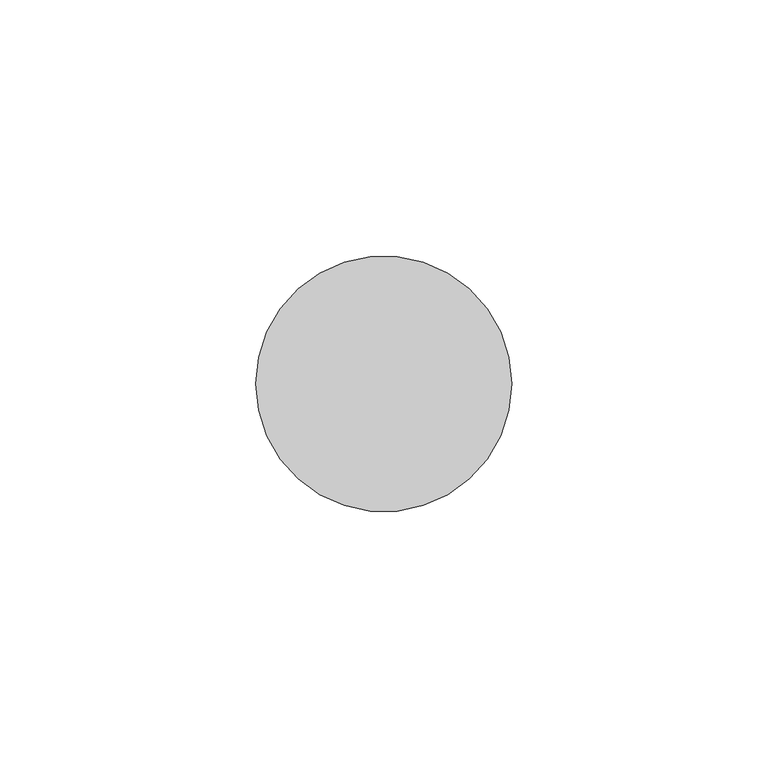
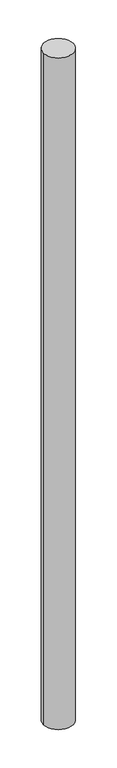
"""IFC4 building model written with IfcOpenShell, lengths in millimetres: member geometry, 圓形豎框 : 25mm 半徑."""

import ifcopenshell
import ifcopenshell.guid

model = None  # the IFC model being written
_history = None  # IfcOwnerHistory: only IFC2X3 demands one
_inside = {}  # id of a spatial element -> (the spatial element, [elements in it])
_under = {}  # id of a project, library or spatial element -> (it, [spatial elements below it])
_declared = {}  # id of a project -> (the project, [libraries it declares])
_typed = {}  # id of a type object -> (the type object, [elements of that type])
_made_of = {}  # id of a material, layer set ... -> (it, [elements and type objects made of it])


def new_model(schema):
    """Start an empty IFC model of exactly this schema.

    Asked for "IFC4X3", IfcOpenShell would pick the latest addendum, in which some entities
    have other attributes; the version numbers below select the first issue.
    IFC2X3 requires an IfcOwnerHistory on every rooted entity: one is made here for all.
    """
    global model, _history
    if schema == "IFC4X3":
        model = ifcopenshell.file(schema_version=(4, 3, 0, 0))
    else:
        model = ifcopenshell.file(schema=schema)
    _inside.clear()
    _under.clear()
    _declared.clear()
    _typed.clear()
    _made_of.clear()
    _history = None
    if model.schema == "IFC2X3":
        org = make("IfcOrganization", Name="unknown")
        user = make(
            "IfcPersonAndOrganization",
            ThePerson=make("IfcPerson", FamilyName="unknown"),
            TheOrganization=org,
        )
        app = make(
            "IfcApplication",
            ApplicationDeveloper=org,
            Version="unknown",
            ApplicationFullName="unknown",
            ApplicationIdentifier="unknown",
        )
        _history = make(
            "IfcOwnerHistory",
            OwningUser=user,
            OwningApplication=app,
            ChangeAction="ADDED",
            CreationDate=0,
        )
    return model


def make(cls, **values):
    """One entity of the class cls with the attributes given. An attribute that is None is left unset."""
    return model.create_entity(
        cls, **{name: value for name, value in values.items() if value is not None}
    )


def rooted(cls, **values):
    """An entity with a GlobalId (a new one), such as an element, a storey or a relation."""
    return make(cls, GlobalId=ifcopenshell.guid.new(), OwnerHistory=_history, **values)


def si_unit(unit_type, name, prefix=None):
    """IfcSIUnit, for example si_unit("LENGTHUNIT", "METRE", prefix="MILLI")."""
    return make("IfcSIUnit", UnitType=unit_type, Prefix=prefix, Name=name)


def assignment(units):
    """IfcUnitAssignment: the units of a project."""
    return None if units is None else make("IfcUnitAssignment", Units=units)


def point(xyz):
    """IfcCartesianPoint."""
    return None if xyz is None else make("IfcCartesianPoint", Coordinates=xyz)


def direction(xyz):
    """IfcDirection."""
    return None if xyz is None else make("IfcDirection", DirectionRatios=xyz)


def frame(location, z_axis=None, x_axis=None):
    """IfcAxis2Placement3D, a coordinate frame: its origin and axes. An axis left out is left unset."""
    return make(
        "IfcAxis2Placement3D",
        Location=point(location),
        Axis=direction(z_axis),
        RefDirection=direction(x_axis),
    )


def frame_2d(location, x_axis=None):
    """IfcAxis2Placement2D, a coordinate frame in the plane: its origin and x axis."""
    return make(
        "IfcAxis2Placement2D", Location=point(location), RefDirection=direction(x_axis)
    )


def origin():
    """The frame at (0, 0, 0) with its axes left unset."""
    return frame((0.0, 0.0, 0.0))


def origin_2d():
    """The frame at (0, 0) in the plane with its x axis left unset."""
    return frame_2d((0.0, 0.0))


def place(relative_to, where):
    """IfcLocalPlacement: puts the frame where relative to a parent placement (None: the world)."""
    return make(
        "IfcLocalPlacement", PlacementRelTo=relative_to, RelativePlacement=where
    )


def context(
    kind, dimensions, precision=None, world=None, true_north=None, identifier=None
):
    """IfcGeometricRepresentationContext, for example the 3D "Model" context."""
    return make(
        "IfcGeometricRepresentationContext",
        ContextIdentifier=identifier,
        ContextType=kind,
        CoordinateSpaceDimension=dimensions,
        Precision=precision,
        WorldCoordinateSystem=world,
        TrueNorth=true_north,
    )


def project(units=None, contexts=None):
    """IfcProject with its units and contexts."""
    return rooted(
        "IfcProject",
        Name="project",
        RepresentationContexts=contexts,
        UnitsInContext=assignment(units),
    )


def spatial(cls, under=None, at=None, **own):
    """A site, building, storey or space (cls), placed at a placement, below another one or the project."""
    s = rooted(cls, ObjectPlacement=at, **own)
    if under is not None:
        _under.setdefault(under.id(), (under, []))[1].append(s)
    return s


def circle_curve(where, radius):
    """IfcCircle in the frame where."""
    return make("IfcCircle", Position=where, Radius=radius)


def trimmed(basis, trim1, trim2, sense, master):
    """IfcTrimmedCurve: the piece of a basis curve between two trims."""
    return make(
        "IfcTrimmedCurve",
        BasisCurve=basis,
        Trim1=trim1,
        Trim2=trim2,
        SenseAgreement=sense,
        MasterRepresentation=master,
    )


def segment(curve, same_sense, transition):
    """IfcCompositeCurveSegment."""
    return make(
        "IfcCompositeCurveSegment",
        Transition=transition,
        SameSense=same_sense,
        ParentCurve=curve,
    )


def composite_curve(segments, self_intersect=None):
    """IfcCompositeCurve: segments joined end to end."""
    return make("IfcCompositeCurve", Segments=segments, SelfIntersect=self_intersect)


def outline(outer, holes=None, kind="AREA"):
    """IfcArbitraryClosedProfileDef: a profile drawn as a closed curve; with holes, ...WithVoids."""
    if holes is None:
        return make("IfcArbitraryClosedProfileDef", ProfileType=kind, OuterCurve=outer)
    return make(
        "IfcArbitraryProfileDefWithVoids",
        ProfileType=kind,
        OuterCurve=outer,
        InnerCurves=holes,
    )


def extrude(swept, where, along, depth):
    """IfcExtrudedAreaSolid: the profile swept, set in the frame where, extruded along a direction by depth."""
    return make(
        "IfcExtrudedAreaSolid",
        SweptArea=swept,
        Position=where,
        ExtrudedDirection=direction(along),
        Depth=depth,
    )


def shape(context_of_items, identifier, shape_type, items):
    """IfcShapeRepresentation: the items that make up one representation, for example the "Body"."""
    return make(
        "IfcShapeRepresentation",
        ContextOfItems=context_of_items,
        RepresentationIdentifier=identifier,
        RepresentationType=shape_type,
        Items=items,
    )


def source(mapping_origin, context_of_items, identifier, shape_type, items):
    """IfcRepresentationMap: a shape defined once, which mapped items show again and again."""
    return make(
        "IfcRepresentationMap",
        MappingOrigin=mapping_origin,
        MappedRepresentation=shape(context_of_items, identifier, shape_type, items),
    )


def transform(
    local_origin,
    x_axis=None,
    y_axis=None,
    z_axis=None,
    scale=None,
    scale2=None,
    scale3=None,
    uniform=True,
):
    """IfcCartesianTransformationOperator3D, or its non-uniform kind. x_axis, y_axis, z_axis: its Axis1, 2, 3."""
    if uniform:
        return make(
            "IfcCartesianTransformationOperator3D",
            Axis1=direction(x_axis),
            Axis2=direction(y_axis),
            LocalOrigin=point(local_origin),
            Scale=scale,
            Axis3=direction(z_axis),
        )
    return make(
        "IfcCartesianTransformationOperator3DnonUniform",
        Axis1=direction(x_axis),
        Axis2=direction(y_axis),
        LocalOrigin=point(local_origin),
        Scale=scale,
        Axis3=direction(z_axis),
        Scale2=scale2,
        Scale3=scale3,
    )


def mapped(mapping_source, mapping_target):
    """IfcMappedItem: shows the shape of a source again, moved by a transform."""
    return make(
        "IfcMappedItem", MappingSource=mapping_source, MappingTarget=mapping_target
    )


def made_of(thing, what):
    """Note that an element or type object is made of a material, layer set ...; save() writes the relation."""
    if what is not None:
        _made_of.setdefault(what.id(), (what, []))[1].append(thing)
    return thing


def element(
    cls,
    number,
    at=None,
    inside=None,
    cuts=None,
    type_object=None,
    material=None,
    context=None,
    identifier="Body",
    shape_type=None,
    held_by="IfcProductDefinitionShape",
    body=None,
    shapes=None,
    **own,
):
    """One element of the class cls, such as IfcWall. Its Tag is "e" and its number.

    at: its placement. inside: the storey or other place that contains it. cuts: it is an
    opening in that element (IfcRelVoidsElement). A single representation is given by context,
    identifier, shape_type and body (its items); several are given by shapes. held_by: the class
    of the entity that holds the representations. save() writes the other relations.
    """
    e = rooted(cls, Tag="e%d" % number, ObjectPlacement=at, **own)
    if body is not None:
        shapes = [shape(context, identifier, shape_type, body)]
    if shapes is not None:
        e.Representation = make(held_by, Representations=shapes)
    if inside is not None:
        _inside.setdefault(inside.id(), (inside, []))[1].append(e)
    if cuts is not None:
        rooted(
            "IfcRelVoidsElement", RelatingBuildingElement=cuts, RelatedOpeningElement=e
        )
    if type_object is not None:
        _typed.setdefault(type_object.id(), (type_object, []))[1].append(e)
    return made_of(e, material)


def aggregate(whole, parts):
    """IfcRelAggregates: a whole, such as a stair, and the parts it consists of."""
    return rooted("IfcRelAggregates", RelatingObject=whole, RelatedObjects=parts)


def save(model, path):
    """Write the relations noted so far, then the file.

    IfcRelAggregates (storeys below a building ...), IfcRelContainedInSpatialStructure (elements
    in a storey), IfcRelDefinesByType, IfcRelAssociatesMaterial and IfcRelDeclares: one each for
    every whole, place, type object, material and project.
    """
    for whole, parts in _under.values():
        aggregate(whole, parts)
    for where, things in _inside.values():
        rooted(
            "IfcRelContainedInSpatialStructure",
            RelatedElements=things,
            RelatingStructure=where,
        )
    for kind, things in _typed.values():
        rooted("IfcRelDefinesByType", RelatedObjects=things, RelatingType=kind)
    for what, things in _made_of.values():
        rooted("IfcRelAssociatesMaterial", RelatedObjects=things, RelatingMaterial=what)
    for by, libraries in _declared.values():
        rooted("IfcRelDeclares", RelatingContext=by, RelatedDefinitions=libraries)
    model.write(path)


def member_fa94dc53(model_context):
    return source(origin(), model_context, "Body", "SweptSolid", [
        extrude(outline(composite_curve([segment(trimmed(circle_curve(origin_2d(), 25.0), [point((25.0, 0.0))], [point((-25.0, 0.0))], False, "CARTESIAN"), True, "CONTINUOUS"), segment(trimmed(circle_curve(origin_2d(), 25.0), [point((-25.0, 0.0))], [point((25.0, 0.0))], False, "CARTESIAN"), True, "CONTINUOUS")], self_intersect=False)), frame((0.0, 0.0, -1197.9965775), z_axis=(0.0, 0.0, 1.0), x_axis=(1.0, 0.0, 0.0)), (0.0, 0.0, 1.0), 1197.9965775),
    ])


if __name__ == "__main__":
    model = new_model("IFC4")
    model_context = context("Model", 3, world=origin())
    ifc_project = project(units=[si_unit("LENGTHUNIT", "METRE", prefix="MILLI")], contexts=[model_context])
    site = spatial("IfcSite", under=ifc_project)
    building = spatial("IfcBuilding", under=site)
    placement = place(None, origin())
    member_shape = member_fa94dc53(model_context)
    element("IfcMember", 1, ObjectType="圓形豎框 : 25mm 半徑", at=placement, inside=building, context=model_context, shape_type="MappedRepresentation", body=[
        mapped(member_shape, transform((0.0, 0.0, 0.0), x_axis=(1.0, 0.0, 0.0), y_axis=(0.0, 1.0, 0.0), z_axis=(0.0, 0.0, 1.0))),
    ])
    save(model, "model.ifc")
